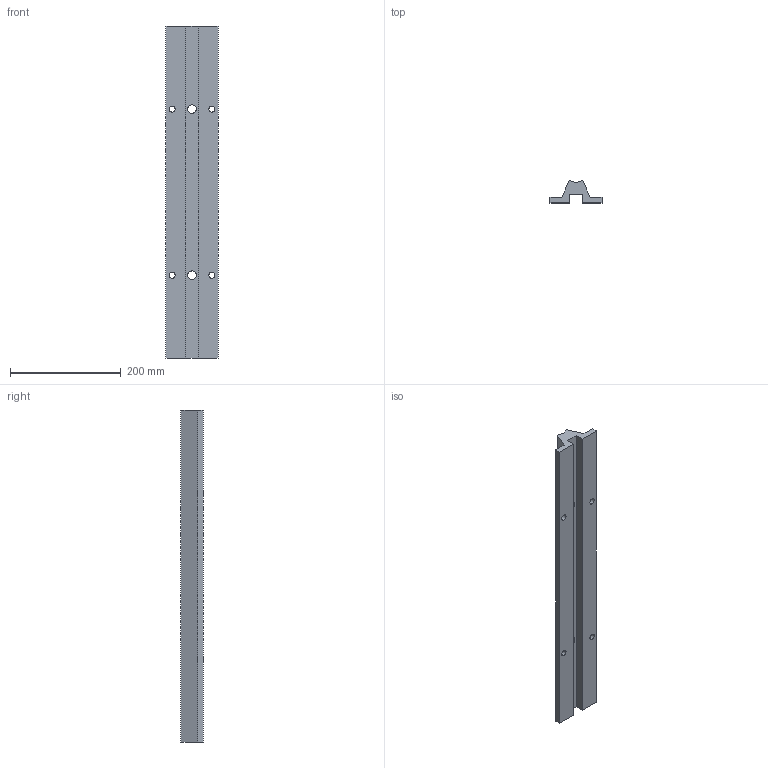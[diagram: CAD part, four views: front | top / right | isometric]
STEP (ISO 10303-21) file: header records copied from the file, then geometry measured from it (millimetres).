
FILE_DESCRIPTION (( 'STEP AP203' ), '1' );
FILE_NAME ('KWU50-60 T1-T2.step', '2020-03-23T07:55:19', ( '' ), ( '' ), 'SwSTEP 2.0', 'SolidWorks 2019', '' );
FILE_SCHEMA (( 'CONFIG_CONTROL_DESIGN' ));
Length unit declared in the file: millimetre
Products named in the file (2): KWU50-60 T1-T2
Bounding box: 94 x 40.48 x 599.5 mm (x, y, z)
Volume: 1010232.4 mm3; surface area: 173657.3 mm2
Topology: 1 solids, 1 shells, 27 faces, 77 edges, 50 vertices
Faces by surface type: plane 15, cylinder 12
Entity records: 1058 total; most frequent: CARTESIAN_POINT 168, ORIENTED_EDGE 154, DIRECTION 151, EDGE_CURVE 77, LINE 53, VECTOR 53, VERTEX_POINT 50, AXIS2_PLACEMENT_3D 49
